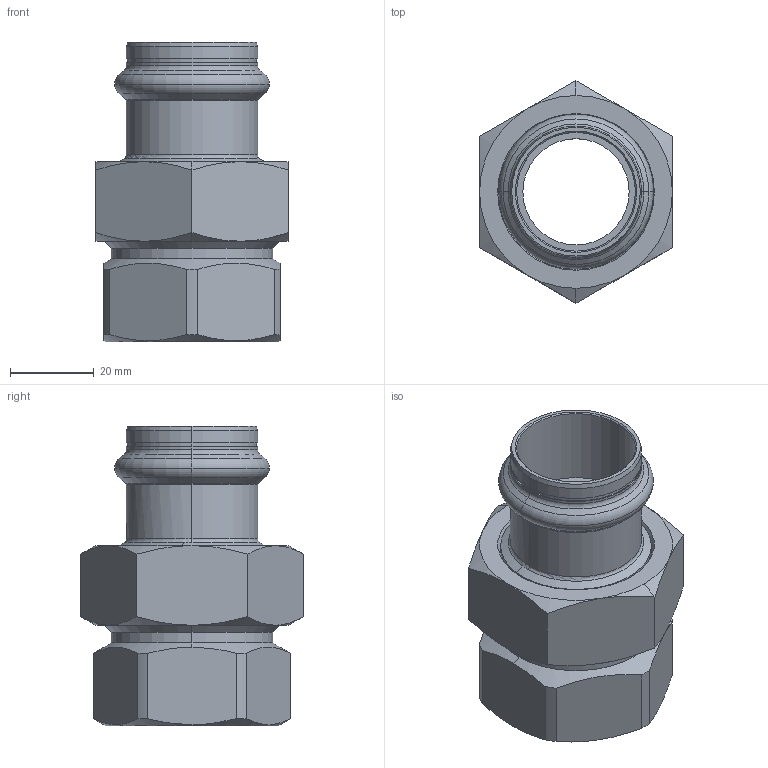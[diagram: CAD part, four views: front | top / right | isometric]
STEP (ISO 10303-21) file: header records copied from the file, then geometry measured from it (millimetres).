
FILE_DESCRIPTION(('CoCreate Modeling STEP Export'),'2;1');
FILE_NAME('8330GVW281.stp','2013-03-05T13:19:38',(''),(''),'CoCreate Modeling STEP processor for AP214 (Solid Model)','CoCreate Modeling 17.00A 17-Jun-2010 (C) Parametric Technology GmbH','');
FILE_SCHEMA(('AUTOMOTIVE_DESIGN { 1 0 10303 214 1 1 1 1 }'));
Length unit declared in the file: millimetre
Products named in the file (4): DRAAD; MOER; Wartelpuntstuk_C-PR_28x5.1; 8330GVW281
Assembly tree (3 placements, depth 2):
  8330GVW281
    Wartelpuntstuk_C-PR_28x5.1
    MOER
    DRAAD
Bounding box: 46 x 53.12 x 71.5 mm (x, y, z)
Volume: 46250.5 mm3; surface area: 24064.1 mm2
Topology: 3 solids, 3 shells, 132 faces, 304 edges, 182 vertices
Faces by surface type: cone 52, cylinder 44, plane 22, torus 14
Entity records: 5113 total; most frequent: CARTESIAN_POINT 2490, ORIENTED_EDGE 608, DIRECTION 386, EDGE_CURVE 304, VERTEX_POINT 182, AXIS2_PLACEMENT_3D 145, EDGE_LOOP 142, FACE_OUTER_BOUND 132
